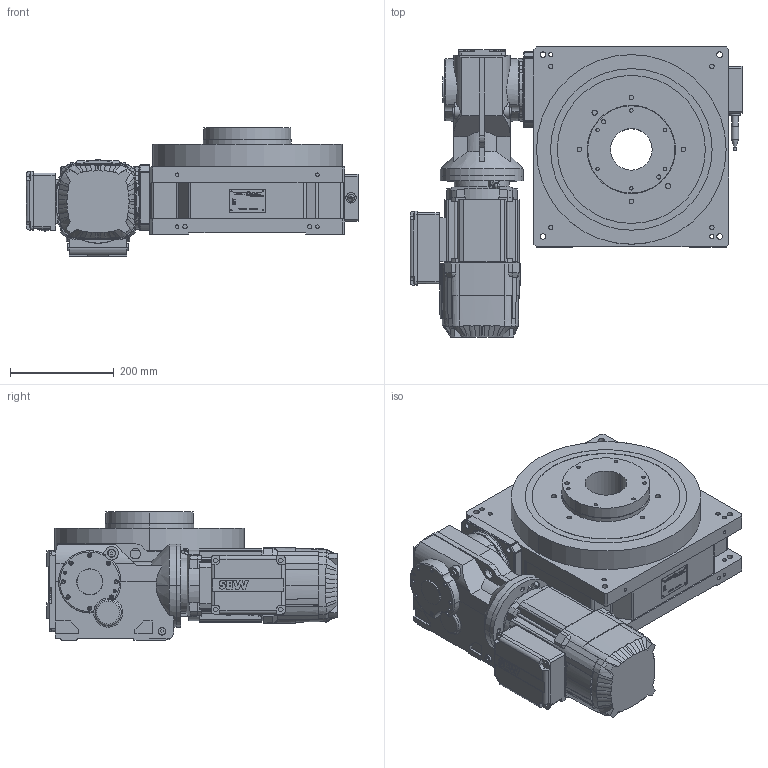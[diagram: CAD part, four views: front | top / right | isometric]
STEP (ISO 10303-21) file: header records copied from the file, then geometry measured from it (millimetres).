
FILE_DESCRIPTION(('STEP AP214'),'1');
FILE_NAME('cctmp_2B8B796C-6E4E-4525-8D93-02AE09C13AC0_2024_3_6_16_24_6_248..stp','2024-03-06T15:24:08',('Taktomat GmbH'),('CADClick - www.CADClick.com'),'Spatial InterOp 3D',' ','unknown authorization');
FILE_SCHEMA(('AUTOMOTIVE_DESIGN'));
Length unit declared in the file: millimetre
Products named in the file (1): 1
Bounding box: 639.01 x 558.5 x 246.5 mm (x, y, z)
Volume: 29195795.7 mm3; surface area: 1379204.7 mm2
Topology: 6 solids, 27 shells, 2736 faces, 7220 edges, 4726 vertices
Faces by surface type: plane 1374, bspline 623, cylinder 549, cone 139, torus 41, sphere 10
Entity records: 119574 total; most frequent: CARTESIAN_POINT 33536, ORIENTED_EDGE 14356, DIRECTION 11336, EDGE_CURVE 7178, VERTEX_POINT 4726, LINE 4230, VECTOR 4230, AXIS2_PLACEMENT_3D 3553
